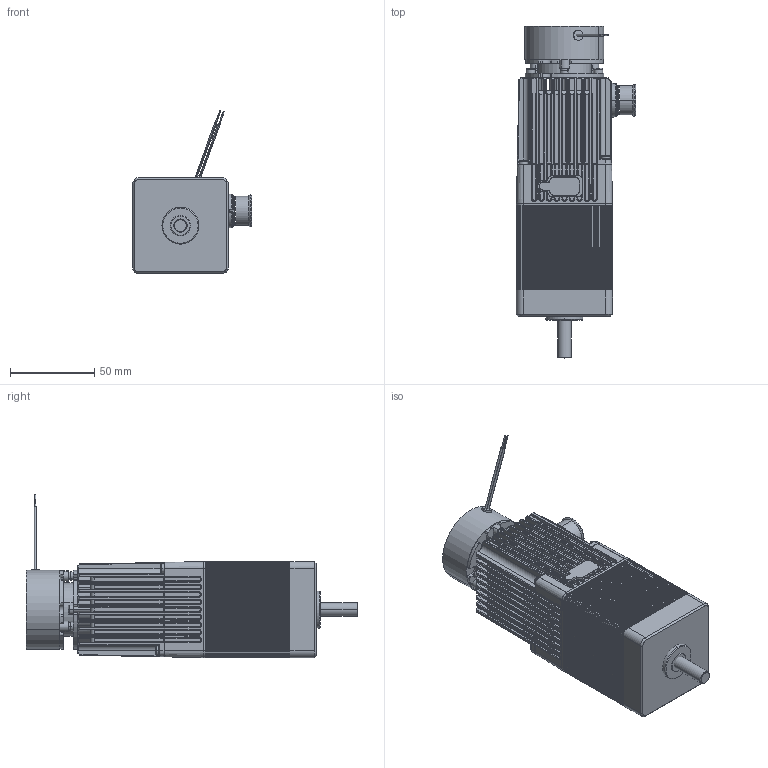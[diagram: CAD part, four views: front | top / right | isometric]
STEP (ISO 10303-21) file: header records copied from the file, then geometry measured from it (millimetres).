
FILE_DESCRIPTION((''),'2;1');
FILE_NAME('ENV_SIMP_STEP_TEMP','2012-10-24T',('VALJBL1'),('CROUZET-AUTOMATISMES'),'PRO/ENGINEER BY PARAMETRIC TECHNOLOGY CORPORATION, 2012090','PRO/ENGINEER BY PARAMETRIC TECHNOLOGY CORPORATION, 2012090','');
FILE_SCHEMA(('CONFIG_CONTROL_DESIGN'));
Products named in the file (1): ENV_SIMP_STEP_TEMP
Bounding box: 70.95 x 197.55 x 97.22 mm (x, y, z)
Surface area: 102911.2 mm2 (no closed solid volume)
Topology: 0 solids, 195 shells, 3339 faces, 10109 edges, 6798 vertices
Faces by surface type: cylinder 1585, plane 1454, sphere 122, bspline 88, torus 63, cone 27
Entity records: 119238 total; most frequent: CARTESIAN_POINT 33880, DIRECTION 17566, ORIENTED_EDGE 15578, EDGE_CURVE 10109, VERTEX_POINT 6798, VECTOR 5938, LINE 5938, AXIS2_PLACEMENT_3D 5814
